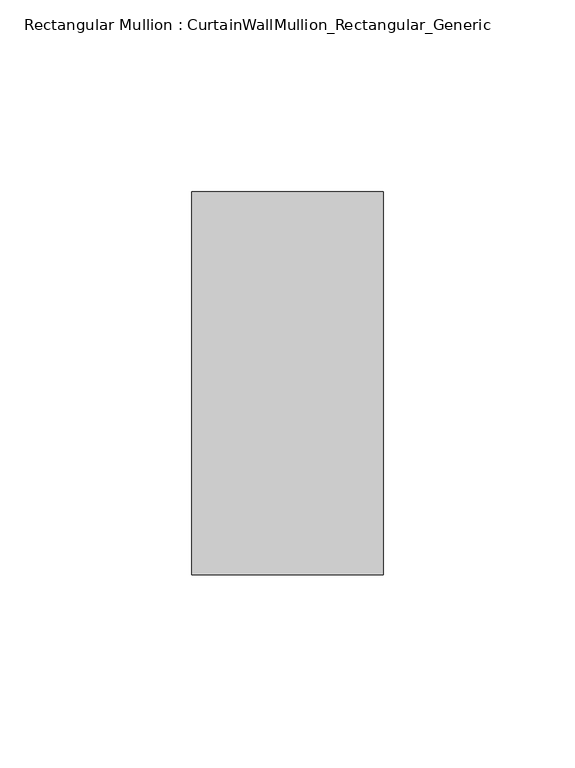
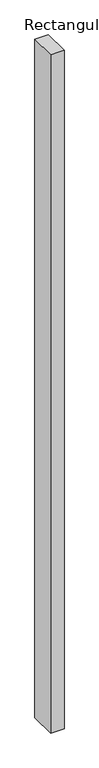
"""IFC4 building model written with IfcOpenShell, lengths in millimetres: member geometry, Rectangular Mullion : CurtainWallMullion_Rectangular_Generic."""

from ifc_helpers import new_model, si_unit, frame, origin, place, context, project, spatial, polyline, outline, extrude, source, transform, mapped, element, save


def rectangular_mullion_curtainwallmullion_rectangular_generic_2e425acd(model_context):
    return source(origin(), model_context, "Body", "SweptSolid", [
        extrude(outline(polyline([(25.0, 50.0), (25.0, -50.0), (-25.0, -50.0), (-25.0, 50.0), (25.0, 50.0)])), frame((0.0, 0.0, -2651.9999998), z_axis=(0.0, 0.0, 1.0), x_axis=(1.0, 0.0, 0.0)), (0.0, 0.0, 1.0), 2651.9999998),
    ])


if __name__ == "__main__":
    model = new_model("IFC4")
    model_context = context("Model", 3, world=origin())
    ifc_project = project(units=[si_unit("LENGTHUNIT", "METRE", prefix="MILLI")], contexts=[model_context])
    site = spatial("IfcSite", under=ifc_project)
    building = spatial("IfcBuilding", under=site)
    placement = place(None, origin())
    rectangular_mullion_curtainwallmullion_rectangular_generic_shape = rectangular_mullion_curtainwallmullion_rectangular_generic_2e425acd(model_context)
    element("IfcMember", 1, ObjectType="Rectangular Mullion : CurtainWallMullion_Rectangular_Generic", at=placement, inside=building, context=model_context, shape_type="MappedRepresentation", body=[
        mapped(rectangular_mullion_curtainwallmullion_rectangular_generic_shape, transform((0.0, 0.0, 0.0), x_axis=(1.0, 0.0, 0.0), y_axis=(0.0, 1.0, 0.0), z_axis=(0.0, 0.0, 1.0))),
    ])
    save(model, "model.ifc")
